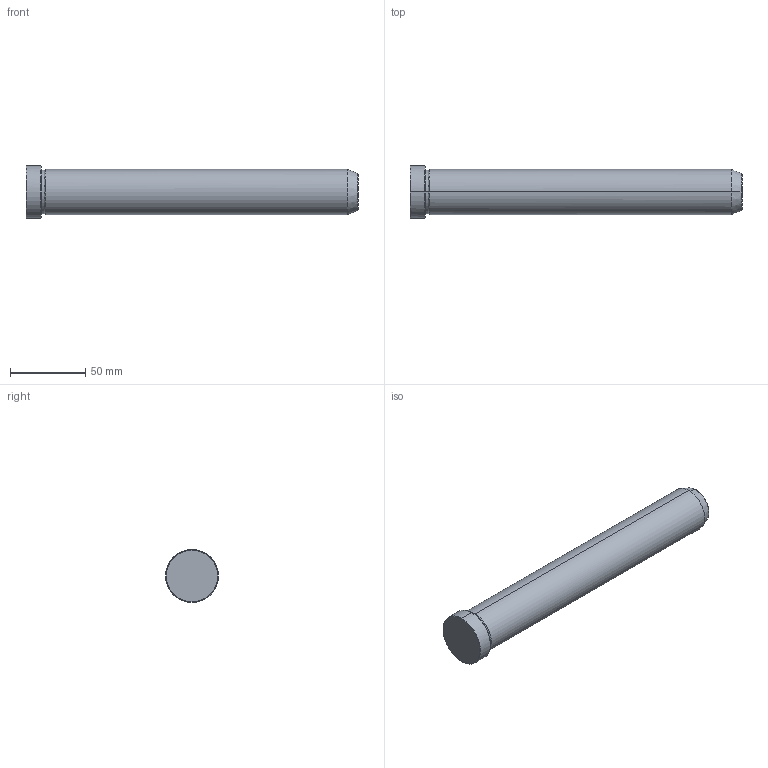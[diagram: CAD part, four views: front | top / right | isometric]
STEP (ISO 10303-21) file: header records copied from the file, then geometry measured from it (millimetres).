
FILE_DESCRIPTION(('CATIA V5 STEP Exchange'),'2;1');
FILE_NAME('C:\Users\Utente\Desktop\IO LAVORO\3D X SITO CF\X SITO\PLASTICA\549\549-30X220.stp','2021-12-17T14:37:03+00:00',('none'),('none'),'CATIA Version 5 Release 20 GA (IN-10)','CATIA V5 STEP AP203','none');
FILE_SCHEMA(('CONFIG_CONTROL_DESIGN'));
Length unit declared in the file: millimetre
Products named in the file (1): 549-30X220
Bounding box: 220 x 35 x 35 mm (x, y, z)
Volume: 157058.2 mm3; surface area: 22558.7 mm2
Topology: 1 solids, 1 shells, 19 faces, 56 edges, 40 vertices
Faces by surface type: cone 8, cylinder 6, plane 3, torus 2
Entity records: 736 total; most frequent: CARTESIAN_POINT 192, ORIENTED_EDGE 112, DIRECTION 86, EDGE_CURVE 56, AXIS2_PLACEMENT_3D 54, VERTEX_POINT 40, CIRCLE 34, EDGE_LOOP 20
